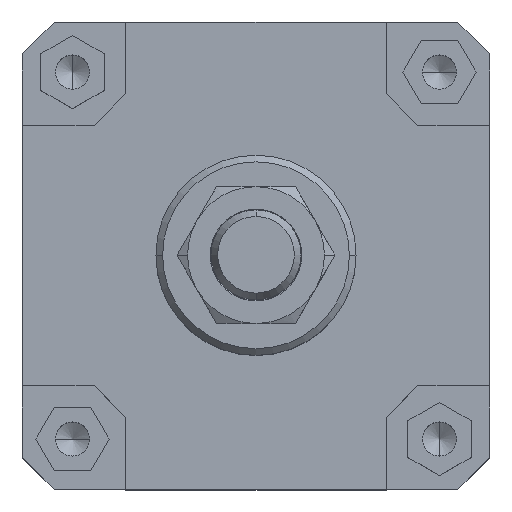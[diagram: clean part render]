
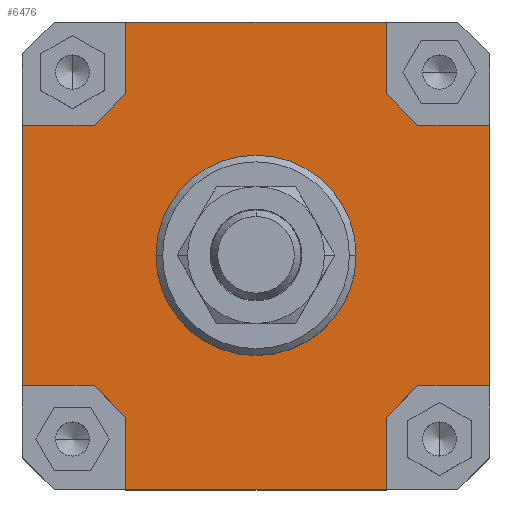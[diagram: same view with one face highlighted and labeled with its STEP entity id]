
A CAD part, top view. The second image highlights one B-rep face of the part: STEP entity #6476.
In plain terms, the highlighted planar face has unit normal (0, 0, 1).
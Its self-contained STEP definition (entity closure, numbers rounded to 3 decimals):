
#2320=CARTESIAN_POINT('',(-30.0,0.,80.0));
#2321=VERTEX_POINT('',#2320);
#2330=CARTESIAN_POINT('',(30.0,0.,80.0));
#2331=VERTEX_POINT('',#2330);
#2332=CARTESIAN_POINT('',(0.0,0.0,80.0));
#2333=DIRECTION('',(0.0,0.0,-1.0));
#2334=DIRECTION('',(-1.0,0.0,0.0));
#2335=AXIS2_PLACEMENT_3D('',#2332,#2333,#2334);
#2336=CIRCLE('',#2335,30.0);
#2337=EDGE_CURVE('',#2331,#2321,#2336,.T.);
#2557=CARTESIAN_POINT('',(0.0,0.0,80.0));
#2558=DIRECTION('',(0.0,0.0,-1.0));
#2559=DIRECTION('',(-1.0,0.0,0.0));
#2560=AXIS2_PLACEMENT_3D('',#2557,#2558,#2559);
#2561=CIRCLE('',#2560,30.0);
#2562=EDGE_CURVE('',#2321,#2331,#2561,.T.);
#2641=CARTESIAN_POINT('',(-39.,70.,80.0));
#2642=VERTEX_POINT('',#2641);
#2649=CARTESIAN_POINT('',(39.,70.,80.0));
#2650=VERTEX_POINT('',#2649);
#2651=CARTESIAN_POINT('',(-39.,70.,80.0));
#2652=DIRECTION('',(1.0,0.0,0.0));
#2653=VECTOR('',#2652,78.);
#2654=LINE('',#2651,#2653);
#2655=EDGE_CURVE('',#2642,#2650,#2654,.T.);
#3100=CARTESIAN_POINT('',(70.,39.,80.0));
#3101=VERTEX_POINT('',#3100);
#3108=CARTESIAN_POINT('',(70.,-39.0,80.0));
#3109=VERTEX_POINT('',#3108);
#3110=CARTESIAN_POINT('',(70.,39.,80.0));
#3111=DIRECTION('',(0.0,-1.0,0.0));
#3112=VECTOR('',#3111,78.);
#3113=LINE('',#3110,#3112);
#3114=EDGE_CURVE('',#3101,#3109,#3113,.T.);
#3181=CARTESIAN_POINT('',(-39.,-48.5,80.0));
#3182=VERTEX_POINT('',#3181);
#3189=CARTESIAN_POINT('',(-48.5,-39.,80.0));
#3190=VERTEX_POINT('',#3189);
#3191=CARTESIAN_POINT('',(-39.,-48.5,80.0));
#3192=DIRECTION('',(-0.707,0.707,0.0));
#3193=VECTOR('',#3192,13.435);
#3194=LINE('',#3191,#3193);
#3195=EDGE_CURVE('',#3182,#3190,#3194,.T.);
#3309=CARTESIAN_POINT('',(-70.,-39.,80.0));
#3310=VERTEX_POINT('',#3309);
#3311=CARTESIAN_POINT('',(-70.,-39.,80.0));
#3312=DIRECTION('',(1.0,0.0,0.0));
#3313=VECTOR('',#3312,21.5);
#3314=LINE('',#3311,#3313);
#3315=EDGE_CURVE('',#3310,#3190,#3314,.T.);
#3342=CARTESIAN_POINT('',(48.5,-39.,80.0));
#3343=VERTEX_POINT('',#3342);
#3350=CARTESIAN_POINT('',(39.,-48.5,80.0));
#3351=VERTEX_POINT('',#3350);
#3352=CARTESIAN_POINT('',(48.5,-39.,80.0));
#3353=DIRECTION('',(-0.707,-0.707,0.0));
#3354=VECTOR('',#3353,13.435);
#3355=LINE('',#3352,#3354);
#3356=EDGE_CURVE('',#3343,#3351,#3355,.T.);
#3454=CARTESIAN_POINT('',(39.,-70.,80.0));
#3455=VERTEX_POINT('',#3454);
#3456=CARTESIAN_POINT('',(39.,-70.,80.0));
#3457=DIRECTION('',(0.0,1.0,0.0));
#3458=VECTOR('',#3457,21.5);
#3459=LINE('',#3456,#3458);
#3460=EDGE_CURVE('',#3455,#3351,#3459,.T.);
#3487=CARTESIAN_POINT('',(39.,48.5,80.0));
#3488=VERTEX_POINT('',#3487);
#3495=CARTESIAN_POINT('',(48.5,39.,80.0));
#3496=VERTEX_POINT('',#3495);
#3497=CARTESIAN_POINT('',(39.,48.5,80.0));
#3498=DIRECTION('',(0.707,-0.707,0.0));
#3499=VECTOR('',#3498,13.435);
#3500=LINE('',#3497,#3499);
#3501=EDGE_CURVE('',#3488,#3496,#3500,.T.);
#3592=CARTESIAN_POINT('',(70.,39.,80.0));
#3593=DIRECTION('',(-1.0,0.0,0.0));
#3594=VECTOR('',#3593,21.5);
#3595=LINE('',#3592,#3594);
#3596=EDGE_CURVE('',#3101,#3496,#3595,.T.);
#3609=CARTESIAN_POINT('',(-48.5,39.,80.0));
#3610=VERTEX_POINT('',#3609);
#3617=CARTESIAN_POINT('',(-39.,48.5,80.0));
#3618=VERTEX_POINT('',#3617);
#3619=CARTESIAN_POINT('',(-48.5,39.,80.0));
#3620=DIRECTION('',(0.707,0.707,0.0));
#3621=VECTOR('',#3620,13.435);
#3622=LINE('',#3619,#3621);
#3623=EDGE_CURVE('',#3610,#3618,#3622,.T.);
#3640=CARTESIAN_POINT('',(-39.,70.,80.0));
#3641=DIRECTION('',(0.0,-1.0,0.0));
#3642=VECTOR('',#3641,21.5);
#3643=LINE('',#3640,#3642);
#3644=EDGE_CURVE('',#2642,#3618,#3643,.T.);
#4674=CARTESIAN_POINT('',(-70.,39.0,80.0));
#4675=VERTEX_POINT('',#4674);
#4676=CARTESIAN_POINT('',(-70.,-39.,80.0));
#4677=DIRECTION('',(0.0,1.0,0.0));
#4678=VECTOR('',#4677,78.0);
#4679=LINE('',#4676,#4678);
#4680=EDGE_CURVE('',#3310,#4675,#4679,.T.);
#6070=CARTESIAN_POINT('',(-48.5,39.,80.0));
#6071=DIRECTION('',(-1.0,0.0,0.0));
#6072=VECTOR('',#6071,21.5);
#6073=LINE('',#6070,#6072);
#6074=EDGE_CURVE('',#3610,#4675,#6073,.T.);
#6231=CARTESIAN_POINT('',(39.,48.5,80.0));
#6232=DIRECTION('',(0.0,1.0,0.0));
#6233=VECTOR('',#6232,21.5);
#6234=LINE('',#6231,#6233);
#6235=EDGE_CURVE('',#3488,#2650,#6234,.T.);
#6392=CARTESIAN_POINT('',(48.5,-39.,80.0));
#6393=DIRECTION('',(1.0,0.0,0.0));
#6394=VECTOR('',#6393,21.5);
#6395=LINE('',#6392,#6394);
#6396=EDGE_CURVE('',#3343,#3109,#6395,.T.);
#6437=CARTESIAN_POINT('',(0.,0.,80.0));
#6438=DIRECTION('',(0.0,0.0,1.0));
#6439=DIRECTION('',(1.0,0.0,0.0));
#6440=AXIS2_PLACEMENT_3D('',#6437,#6438,#6439);
#6441=PLANE('',#6440);
#6442=ORIENTED_EDGE('',*,*,#3644,.T.);
#6443=ORIENTED_EDGE('',*,*,#3623,.F.);
#6444=ORIENTED_EDGE('',*,*,#6074,.T.);
#6445=ORIENTED_EDGE('',*,*,#4680,.F.);
#6446=ORIENTED_EDGE('',*,*,#3315,.T.);
#6447=ORIENTED_EDGE('',*,*,#3195,.F.);
#6448=CARTESIAN_POINT('',(-39.,-70.,80.0));
#6449=VERTEX_POINT('',#6448);
#6450=CARTESIAN_POINT('',(-39.,-48.5,80.0));
#6451=DIRECTION('',(0.0,-1.0,0.0));
#6452=VECTOR('',#6451,21.5);
#6453=LINE('',#6450,#6452);
#6454=EDGE_CURVE('',#3182,#6449,#6453,.T.);
#6455=ORIENTED_EDGE('',*,*,#6454,.T.);
#6456=CARTESIAN_POINT('',(39.,-70.,80.0));
#6457=DIRECTION('',(-1.0,0.0,0.0));
#6458=VECTOR('',#6457,78.);
#6459=LINE('',#6456,#6458);
#6460=EDGE_CURVE('',#3455,#6449,#6459,.T.);
#6461=ORIENTED_EDGE('',*,*,#6460,.F.);
#6462=ORIENTED_EDGE('',*,*,#3460,.T.);
#6463=ORIENTED_EDGE('',*,*,#3356,.F.);
#6464=ORIENTED_EDGE('',*,*,#6396,.T.);
#6465=ORIENTED_EDGE('',*,*,#3114,.F.);
#6466=ORIENTED_EDGE('',*,*,#3596,.T.);
#6467=ORIENTED_EDGE('',*,*,#3501,.F.);
#6468=ORIENTED_EDGE('',*,*,#6235,.T.);
#6469=ORIENTED_EDGE('',*,*,#2655,.F.);
#6470=EDGE_LOOP('',(#6442,#6443,#6444,#6445,#6446,#6447,#6455,#6461,#6462,#6463,#6464,#6465,#6466,#6467,#6468,#6469));
#6471=FACE_OUTER_BOUND('',#6470,.T.);
#6472=ORIENTED_EDGE('',*,*,#2337,.T.);
#6473=ORIENTED_EDGE('',*,*,#2562,.T.);
#6474=EDGE_LOOP('',(#6472,#6473));
#6475=FACE_BOUND('',#6474,.T.);
#6476=ADVANCED_FACE('',(#6471,#6475),#6441,.T.);
